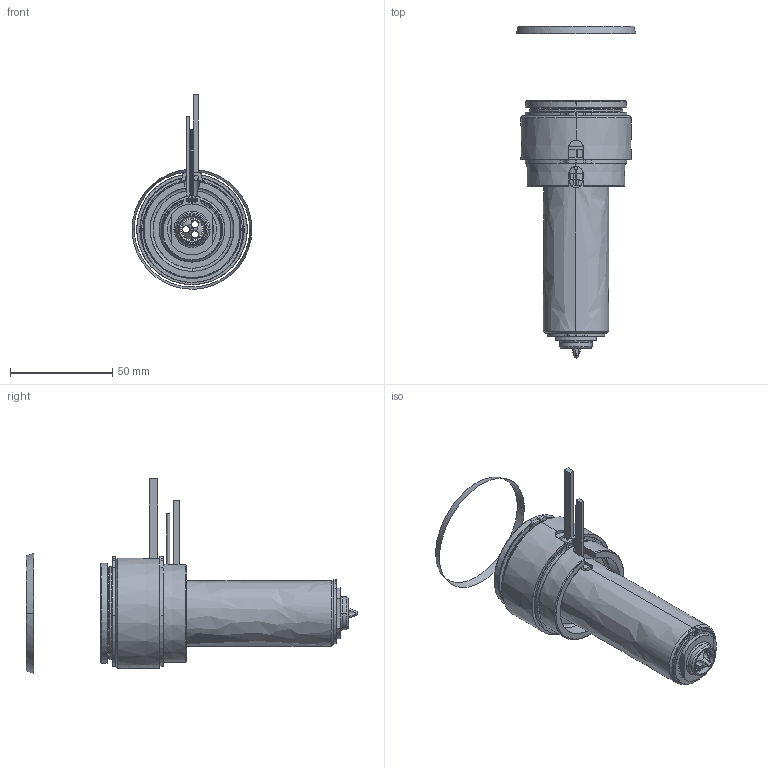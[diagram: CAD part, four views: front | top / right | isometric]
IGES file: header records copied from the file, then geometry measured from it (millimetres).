
Start section: SolidWorks IGES file using analytic representation for surfaces
Global section: file name: C:\Documents and Settings\ws-20\Desktop\TEM\UGEP5502-S-A-0 [Øf-1.55 ØC-13].IGS; native system: SolidWorks 2012; preprocessor: SolidWorks 2012; author: ws-20; date: 120427.081533; units: millimetre
Bounding box: 58.57 x 162.24 x 95.09 mm (x, y, z)
Surface area: 59095.5 mm2 (no closed solid volume)
Topology: 0 solids, 0 shells, 177 faces, 3590 edges, 3590 vertices
Faces by surface type: revolution 115, bspline 62
